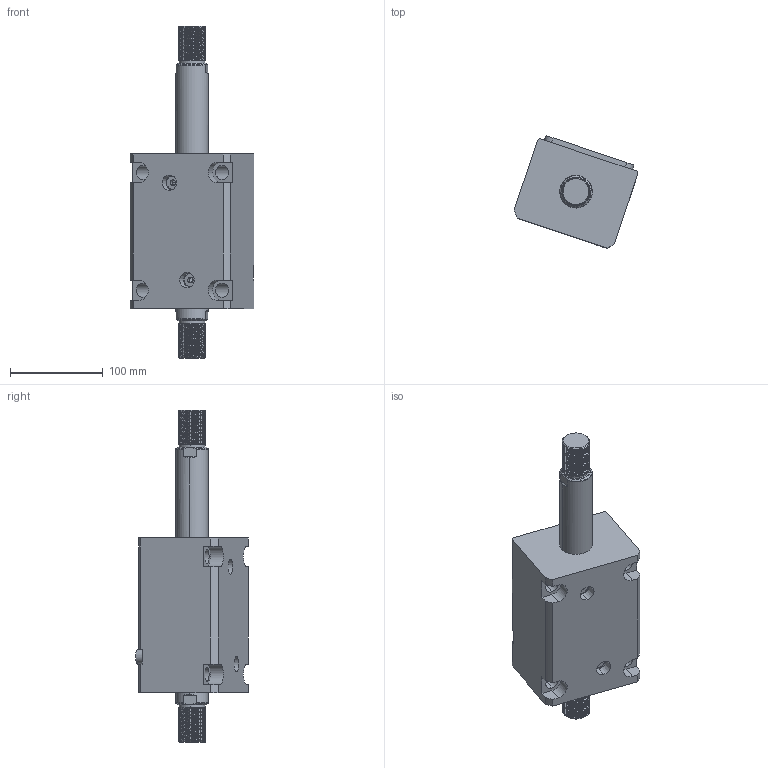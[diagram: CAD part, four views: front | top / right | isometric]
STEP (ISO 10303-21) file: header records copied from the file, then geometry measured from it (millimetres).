
FILE_DESCRIPTION (( 'STEP AP214' ), '1' );
FILE_NAME ('chtb-lw63x85w_asm.STEP', '2018-05-18T08:52:14', ( 'Windows' ), ( 'Microsoft' ), 'SwSTEP 2.0', 'SolidWorks 2015', '' );
FILE_SCHEMA (( 'AUTOMOTIVE_DESIGN' ));
Length unit declared in the file: millimetre
Products named in the file (5): CHTB-SW63X85WHSG; CHTB-LW63X85NBT; CHTB-LA63PJ; CHTB-63QG; chtb-lw63x85w_asm
Assembly tree (4 placements, depth 2):
  chtb-lw63x85w_asm
    CHTB-63QG
    CHTB-LA63PJ
    CHTB-LW63X85NBT
    CHTB-SW63X85WHSG
Bounding box: 133.37 x 121.77 x 358 mm (x, y, z)
Volume: 1588738.8 mm3; surface area: 209377.3 mm2
Topology: 4 solids, 4 shells, 306 faces, 889 edges, 601 vertices
Faces by surface type: cylinder 204, plane 58, bspline 16, cone 16, torus 12
Entity records: 27878 total; most frequent: CARTESIAN_POINT 20531, ORIENTED_EDGE 1770, DIRECTION 1228, EDGE_CURVE 885, VERTEX_POINT 601, AXIS2_PLACEMENT_3D 458, EDGE_LOOP 336, LINE 312
